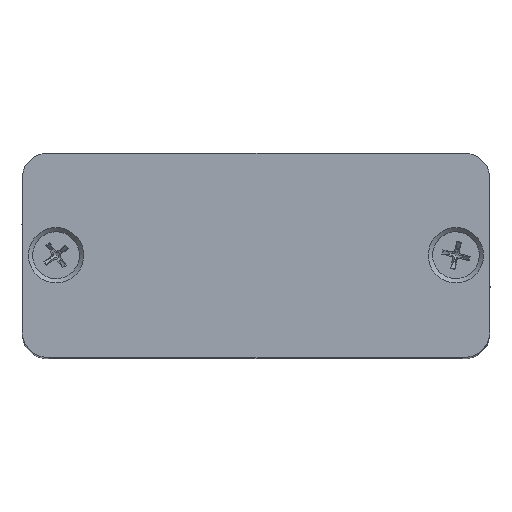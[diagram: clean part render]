
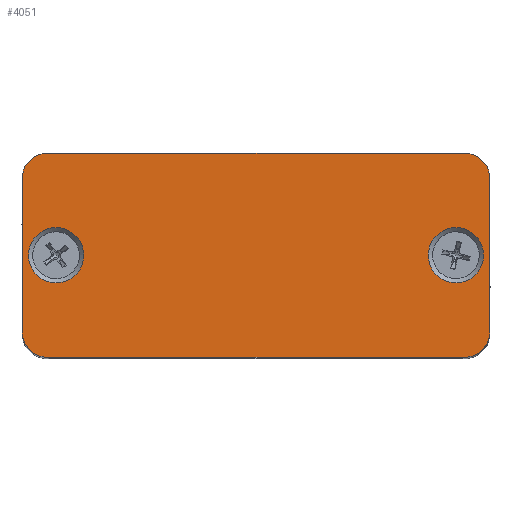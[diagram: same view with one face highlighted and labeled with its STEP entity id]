
A CAD part, top view. The second image highlights one B-rep face of the part: STEP entity #4051.
In plain terms, the highlighted planar face has unit normal (0, 0, 1).
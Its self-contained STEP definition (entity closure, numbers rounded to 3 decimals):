
#3661=CARTESIAN_POINT('',(-29.557,13.942,2.0));
#3662=VERTEX_POINT('',#3661);
#3663=CARTESIAN_POINT('',(-32.807,13.942,2.0));
#3664=DIRECTION('',(0.0,0.0,-1.0));
#3665=DIRECTION('',(1.0,0.0,0.0));
#3666=AXIS2_PLACEMENT_3D('',#3663,#3664,#3665);
#3667=CIRCLE('',#3666,3.25);
#3668=EDGE_CURVE('',#3662,#3662,#3667,.T.);
#3709=CARTESIAN_POINT('',(17.443,13.942,2.0));
#3710=VERTEX_POINT('',#3709);
#3711=CARTESIAN_POINT('',(14.193,13.942,2.0));
#3712=DIRECTION('',(0.0,0.0,-1.0));
#3713=DIRECTION('',(1.0,0.0,0.0));
#3714=AXIS2_PLACEMENT_3D('',#3711,#3712,#3713);
#3715=CIRCLE('',#3714,3.25);
#3716=EDGE_CURVE('',#3710,#3710,#3715,.T.);
#3757=CARTESIAN_POINT('',(-33.807,25.942,2.0));
#3758=VERTEX_POINT('',#3757);
#3759=CARTESIAN_POINT('',(15.193,25.942,2.0));
#3760=VERTEX_POINT('',#3759);
#3761=CARTESIAN_POINT('',(-33.807,25.942,2.0));
#3762=DIRECTION('',(1.0,0.0,0.0));
#3763=VECTOR('',#3762,49.0);
#3764=LINE('',#3761,#3763);
#3765=EDGE_CURVE('',#3758,#3760,#3764,.T.);
#3797=CARTESIAN_POINT('',(18.193,22.942,2.0));
#3798=VERTEX_POINT('',#3797);
#3799=CARTESIAN_POINT('',(15.193,22.942,2.0));
#3800=DIRECTION('',(0.0,0.0,-1.0));
#3801=DIRECTION('',(1.0,0.0,0.0));
#3802=AXIS2_PLACEMENT_3D('',#3799,#3800,#3801);
#3803=CIRCLE('',#3802,3.0);
#3804=EDGE_CURVE('',#3760,#3798,#3803,.T.);
#3830=CARTESIAN_POINT('',(18.193,4.942,2.0));
#3831=VERTEX_POINT('',#3830);
#3832=CARTESIAN_POINT('',(18.193,22.942,2.0));
#3833=DIRECTION('',(0.0,-1.0,0.0));
#3834=VECTOR('',#3833,18.0);
#3835=LINE('',#3832,#3834);
#3836=EDGE_CURVE('',#3798,#3831,#3835,.T.);
#3861=CARTESIAN_POINT('',(15.193,1.942,2.0));
#3862=VERTEX_POINT('',#3861);
#3863=CARTESIAN_POINT('',(15.193,4.942,2.0));
#3864=DIRECTION('',(0.0,0.0,-1.0));
#3865=DIRECTION('',(0.0,-1.0,0.0));
#3866=AXIS2_PLACEMENT_3D('',#3863,#3864,#3865);
#3867=CIRCLE('',#3866,3.0);
#3868=EDGE_CURVE('',#3831,#3862,#3867,.T.);
#3894=CARTESIAN_POINT('',(-33.807,1.942,2.0));
#3895=VERTEX_POINT('',#3894);
#3896=CARTESIAN_POINT('',(15.193,1.942,2.0));
#3897=DIRECTION('',(-1.0,0.0,0.0));
#3898=VECTOR('',#3897,49.);
#3899=LINE('',#3896,#3898);
#3900=EDGE_CURVE('',#3862,#3895,#3899,.T.);
#3925=CARTESIAN_POINT('',(-36.807,4.942,2.0));
#3926=VERTEX_POINT('',#3925);
#3927=CARTESIAN_POINT('',(-33.807,4.942,2.0));
#3928=DIRECTION('',(0.0,0.0,-1.0));
#3929=DIRECTION('',(-1.0,0.0,0.0));
#3930=AXIS2_PLACEMENT_3D('',#3927,#3928,#3929);
#3931=CIRCLE('',#3930,3.0);
#3932=EDGE_CURVE('',#3895,#3926,#3931,.T.);
#3958=CARTESIAN_POINT('',(-36.807,22.942,2.0));
#3959=VERTEX_POINT('',#3958);
#3960=CARTESIAN_POINT('',(-36.807,4.942,2.0));
#3961=DIRECTION('',(0.0,1.0,0.0));
#3962=VECTOR('',#3961,18.);
#3963=LINE('',#3960,#3962);
#3964=EDGE_CURVE('',#3926,#3959,#3963,.T.);
#3989=CARTESIAN_POINT('',(-33.807,22.942,2.0));
#3990=DIRECTION('',(0.0,0.0,-1.0));
#3991=DIRECTION('',(0.0,1.0,0.0));
#3992=AXIS2_PLACEMENT_3D('',#3989,#3990,#3991);
#3993=CIRCLE('',#3992,3.0);
#3994=EDGE_CURVE('',#3959,#3758,#3993,.T.);
#4030=CARTESIAN_POINT('',(-9.307,13.942,2.0));
#4031=DIRECTION('',(0.0,0.0,1.0));
#4032=DIRECTION('',(1.0,0.0,0.0));
#4033=AXIS2_PLACEMENT_3D('',#4030,#4031,#4032);
#4034=PLANE('',#4033);
#4035=ORIENTED_EDGE('',*,*,#3765,.F.);
#4036=ORIENTED_EDGE('',*,*,#3994,.F.);
#4037=ORIENTED_EDGE('',*,*,#3964,.F.);
#4038=ORIENTED_EDGE('',*,*,#3932,.F.);
#4039=ORIENTED_EDGE('',*,*,#3900,.F.);
#4040=ORIENTED_EDGE('',*,*,#3868,.F.);
#4041=ORIENTED_EDGE('',*,*,#3836,.F.);
#4042=ORIENTED_EDGE('',*,*,#3804,.F.);
#4043=EDGE_LOOP('',(#4035,#4036,#4037,#4038,#4039,#4040,#4041,#4042));
#4044=FACE_OUTER_BOUND('',#4043,.T.);
#4045=ORIENTED_EDGE('',*,*,#3668,.T.);
#4046=EDGE_LOOP('',(#4045));
#4047=FACE_BOUND('',#4046,.T.);
#4048=ORIENTED_EDGE('',*,*,#3716,.T.);
#4049=EDGE_LOOP('',(#4048));
#4050=FACE_BOUND('',#4049,.T.);
#4051=ADVANCED_FACE('',(#4044,#4047,#4050),#4034,.T.);
